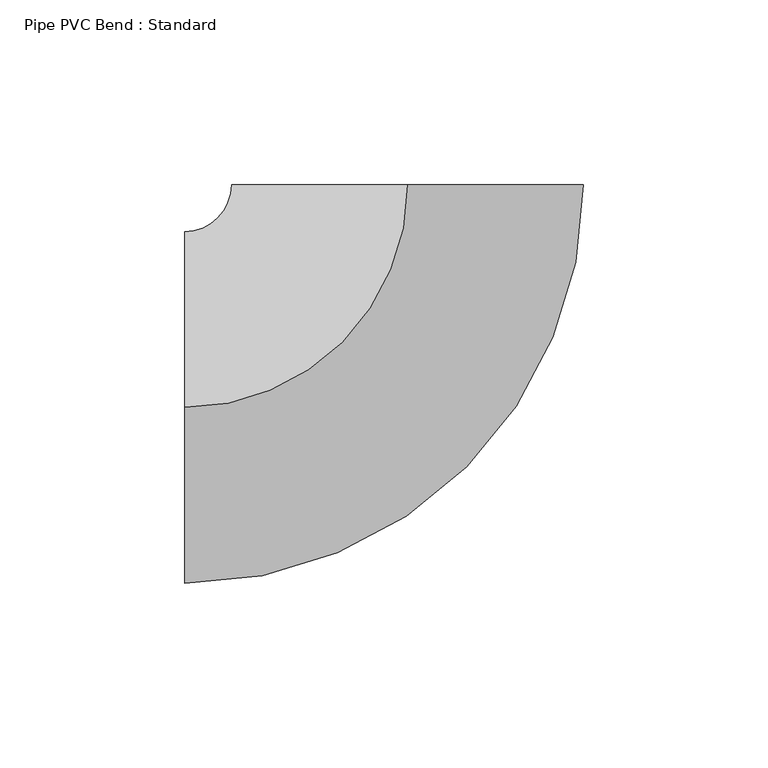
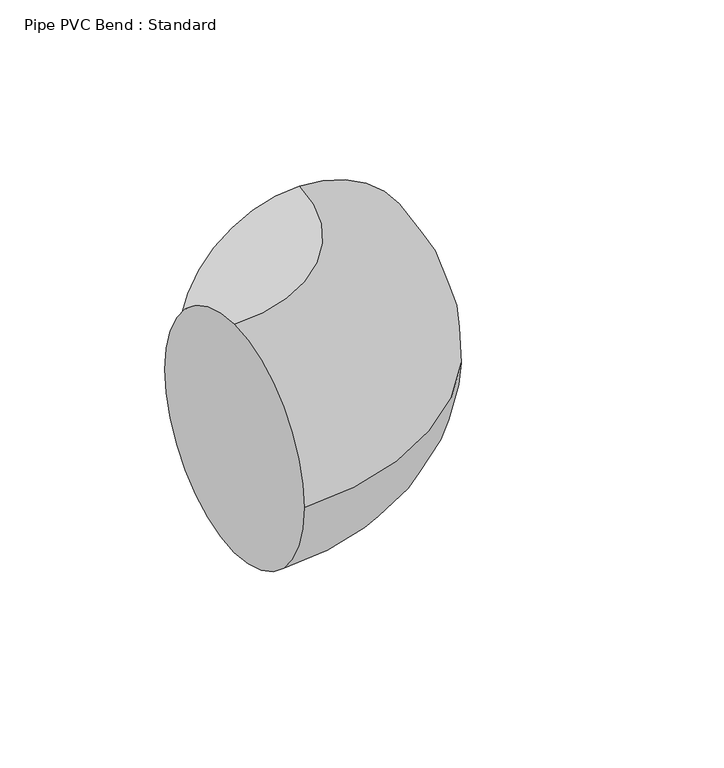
"""IFC4 building model written with IfcOpenShell, lengths in millimetres: pipe fitting geometry, Pipe PVC Bend : Standard."""

from ifc_helpers import new_model, si_unit, point, frame, origin, place, context, project, spatial, circle_curve, ellipse_curve, trimmed, source, transform, mapped, element, save
from ifc_brep_helpers import plane_surface, revolved_surface, advanced_brep


def pipe_pvc_bend_standard_bab017a1(model_context):
    return source(origin(), model_context, "Body", "AdvancedBrep", [
        advanced_brep(
        [(-60.3184571, 0.0, 47.625), (-60.3184571, 47.625, 0.0), (-60.3184571, 0.0, -47.625), (-60.3184571, -47.625, 0.0), (0.0065426, 60.3184567, 47.625), (47.6315423, 60.3132909, 0.0), (0.0065426, 60.3184567, -47.625), (-47.6184571, 60.3236225, 0.0)],
        [
            (0, 1, circle_curve(frame((-60.3184571, 0.0, 0.0), z_axis=(-1.0, 0.0, 0.0), x_axis=(0.0, 1.0, 0.0)), 47.625)),
            (1, 2, circle_curve(frame((-60.3184571, 0.0, 0.0), z_axis=(-1.0, 0.0, 0.0), x_axis=(0.0, 1.0, 0.0)), 47.625)),
            (2, 3, circle_curve(frame((-60.3184571, 0.0, 0.0), z_axis=(-1.0, 0.0, 0.0), x_axis=(0.0, 1.0, 0.0)), 47.625)),
            (3, 0, circle_curve(frame((-60.3184571, 0.0, 0.0), z_axis=(-1.0, 0.0, 0.0), x_axis=(0.0, 1.0, 0.0)), 47.625)),
            (4, 5, circle_curve(frame((0.0065426, 60.3184567, 0.0), z_axis=(0.00010846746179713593, 0.9999999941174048, 0.0), x_axis=(-0.9999999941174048, 0.00010846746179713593, 0.0)), 47.625)),
            (5, 6, circle_curve(frame((0.0065426, 60.3184567, 0.0), z_axis=(0.00010846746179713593, 0.9999999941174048, 0.0), x_axis=(-0.9999999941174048, 0.00010846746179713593, 0.0)), 47.625)),
            (6, 7, circle_curve(frame((0.0065426, 60.3184567, 0.0), z_axis=(0.00010846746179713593, 0.9999999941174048, 0.0), x_axis=(-0.9999999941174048, 0.00010846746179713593, 0.0)), 47.625)),
            (7, 4, circle_curve(frame((0.0065426, 60.3184567, 0.0), z_axis=(0.00010846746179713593, 0.9999999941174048, 0.0), x_axis=(-0.9999999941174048, 0.00010846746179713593, 0.0)), 47.625)),
            (7, 1, circle_curve(frame((-60.3184571, 60.325, 0.0), z_axis=(0.0, 0.0, -1.0), x_axis=(0.0, -1.0, 0.0)), 12.7)),
            (0, 4, circle_curve(frame((-60.3184571, 60.325, 47.625), z_axis=(0.0, 0.0, 1.0), x_axis=(0.0, -1.0, 0.0)), 60.325)),
            (6, 2, circle_curve(frame((-60.3184571, 60.325, -47.625), z_axis=(0.0, 0.0, -1.0), x_axis=(0.0, -1.0, 0.0)), 60.325)),
            (5, 3, circle_curve(frame((-60.3184571, 60.325, 0.0), z_axis=(0.0, 0.0, -1.0), x_axis=(0.0, -1.0, 0.0)), 107.95)),
        ],
        [
            plane_surface(frame((-60.3184571, 0.0, 0.0), z_axis=(-1.0, 0.0, 0.0), x_axis=(0.0, 0.0, 1.0))),
            plane_surface(frame((0.0065426, 60.3184567, 0.0), z_axis=(0.00010846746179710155, 0.9999999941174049, 0.0), x_axis=(0.0, 0.0, 1.0))),
            revolved_surface(trimmed(ellipse_curve(frame((-60.3184571, 0.0, 0.0), z_axis=(-1.0, 0.0, 0.0), x_axis=(0.0, 1.0, 0.0)), 47.625, 47.625), [point((-60.3184571, 0.0, 47.625))], [point((-60.3184571, 47.625, 0.0))], True, "CARTESIAN"), (-60.3184571, 60.325, 0.0), (0.0, 0.0, 1.0)),
            revolved_surface(trimmed(ellipse_curve(frame((-60.3184571, 0.0, 0.0), z_axis=(-1.0, 0.0, 0.0), x_axis=(0.0, 1.0, 0.0)), 47.625, 47.625), [point((-60.3184571, 47.625, 0.0))], [point((-60.3184571, 0.0, -47.625))], True, "CARTESIAN"), (-60.3184571, 60.325, 0.0), (0.0, 0.0, 1.0)),
            revolved_surface(trimmed(ellipse_curve(frame((-60.3184571, 0.0, 0.0), z_axis=(-1.0, 0.0, 0.0), x_axis=(0.0, 1.0, 0.0)), 47.625, 47.625), [point((-60.3184571, 0.0, -47.625))], [point((-60.3184571, -47.625, 0.0))], True, "CARTESIAN"), (-60.3184571, 60.325, 0.0), (0.0, 0.0, 1.0)),
            revolved_surface(trimmed(ellipse_curve(frame((-60.3184571, 0.0, 0.0), z_axis=(-1.0, 0.0, 0.0), x_axis=(0.0, 1.0, 0.0)), 47.625, 47.625), [point((-60.3184571, -47.625, 0.0))], [point((-60.3184571, 0.0, 47.625))], True, "CARTESIAN"), (-60.3184571, 60.325, 0.0), (0.0, 0.0, 1.0)),
        ],
        [
            (0, [[1, 2, 3, 4]]),
            (1, [[5, 6, 7, 8]]),
            (2, [[9, -1, 10, -8]]),
            (3, [[11, -2, -9, -7]]),
            (4, [[12, -3, -11, -6]]),
            (5, [[-10, -4, -12, -5]]),
        ],
    ),
        advanced_brep(
        [(-60.3184571, 0.0, 47.625), (-60.3184571, 47.625, 0.0), (-60.3184571, 0.0, -47.625), (-60.3184571, -47.625, 0.0), (0.0065426, 60.3184567, 47.625), (47.6315423, 60.3132909, 0.0), (0.0065426, 60.3184567, -47.625), (-47.6184571, 60.3236225, 0.0)],
        [
            (0, 1, circle_curve(frame((-60.3184571, 0.0, 0.0), z_axis=(-1.0, 0.0, 0.0), x_axis=(0.0, 1.0, 0.0)), 47.625)),
            (1, 2, circle_curve(frame((-60.3184571, 0.0, 0.0), z_axis=(-1.0, 0.0, 0.0), x_axis=(0.0, 1.0, 0.0)), 47.625)),
            (2, 3, circle_curve(frame((-60.3184571, 0.0, 0.0), z_axis=(-1.0, 0.0, 0.0), x_axis=(0.0, 1.0, 0.0)), 47.625)),
            (3, 0, circle_curve(frame((-60.3184571, 0.0, 0.0), z_axis=(-1.0, 0.0, 0.0), x_axis=(0.0, 1.0, 0.0)), 47.625)),
            (4, 5, circle_curve(frame((0.0065426, 60.3184567, 0.0), z_axis=(0.00010846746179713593, 0.9999999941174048, 0.0), x_axis=(-0.9999999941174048, 0.00010846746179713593, 0.0)), 47.625)),
            (5, 6, circle_curve(frame((0.0065426, 60.3184567, 0.0), z_axis=(0.00010846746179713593, 0.9999999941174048, 0.0), x_axis=(-0.9999999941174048, 0.00010846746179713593, 0.0)), 47.625)),
            (6, 7, circle_curve(frame((0.0065426, 60.3184567, 0.0), z_axis=(0.00010846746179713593, 0.9999999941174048, 0.0), x_axis=(-0.9999999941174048, 0.00010846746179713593, 0.0)), 47.625)),
            (7, 4, circle_curve(frame((0.0065426, 60.3184567, 0.0), z_axis=(0.00010846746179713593, 0.9999999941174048, 0.0), x_axis=(-0.9999999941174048, 0.00010846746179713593, 0.0)), 47.625)),
            (7, 1, circle_curve(frame((-60.3184571, 60.325, 0.0), z_axis=(0.0, 0.0, -1.0), x_axis=(0.0, -1.0, 0.0)), 12.7)),
            (0, 4, circle_curve(frame((-60.3184571, 60.325, 47.625), z_axis=(0.0, 0.0, 1.0), x_axis=(0.0, -1.0, 0.0)), 60.325)),
            (6, 2, circle_curve(frame((-60.3184571, 60.325, -47.625), z_axis=(0.0, 0.0, -1.0), x_axis=(0.0, -1.0, 0.0)), 60.325)),
            (5, 3, circle_curve(frame((-60.3184571, 60.325, 0.0), z_axis=(0.0, 0.0, -1.0), x_axis=(0.0, -1.0, 0.0)), 107.95)),
        ],
        [
            plane_surface(frame((-60.3184571, 0.0, 0.0), z_axis=(-1.0, 0.0, 0.0), x_axis=(0.0, 0.0, 1.0))),
            plane_surface(frame((0.0065426, 60.3184567, 0.0), z_axis=(0.00010846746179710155, 0.9999999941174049, 0.0), x_axis=(0.0, 0.0, 1.0))),
            revolved_surface(trimmed(ellipse_curve(frame((-60.3184571, 0.0, 0.0), z_axis=(-1.0, 0.0, 0.0), x_axis=(0.0, 1.0, 0.0)), 47.625, 47.625), [point((-60.3184571, 0.0, 47.625))], [point((-60.3184571, 47.625, 0.0))], True, "CARTESIAN"), (-60.3184571, 60.325, 0.0), (0.0, 0.0, 1.0)),
            revolved_surface(trimmed(ellipse_curve(frame((-60.3184571, 0.0, 0.0), z_axis=(-1.0, 0.0, 0.0), x_axis=(0.0, 1.0, 0.0)), 47.625, 47.625), [point((-60.3184571, 47.625, 0.0))], [point((-60.3184571, 0.0, -47.625))], True, "CARTESIAN"), (-60.3184571, 60.325, 0.0), (0.0, 0.0, 1.0)),
            revolved_surface(trimmed(ellipse_curve(frame((-60.3184571, 0.0, 0.0), z_axis=(-1.0, 0.0, 0.0), x_axis=(0.0, 1.0, 0.0)), 47.625, 47.625), [point((-60.3184571, 0.0, -47.625))], [point((-60.3184571, -47.625, 0.0))], True, "CARTESIAN"), (-60.3184571, 60.325, 0.0), (0.0, 0.0, 1.0)),
            revolved_surface(trimmed(ellipse_curve(frame((-60.3184571, 0.0, 0.0), z_axis=(-1.0, 0.0, 0.0), x_axis=(0.0, 1.0, 0.0)), 47.625, 47.625), [point((-60.3184571, -47.625, 0.0))], [point((-60.3184571, 0.0, 47.625))], True, "CARTESIAN"), (-60.3184571, 60.325, 0.0), (0.0, 0.0, 1.0)),
        ],
        [
            (0, [[1, 2, 3, 4]]),
            (1, [[5, 6, 7, 8]]),
            (2, [[9, -1, 10, -8]]),
            (3, [[11, -2, -9, -7]]),
            (4, [[12, -3, -11, -6]]),
            (5, [[-10, -4, -12, -5]]),
        ],
    ),
    ])


if __name__ == "__main__":
    model = new_model("IFC4")
    model_context = context("Model", 3, world=origin())
    ifc_project = project(units=[si_unit("LENGTHUNIT", "METRE", prefix="MILLI")], contexts=[model_context])
    site = spatial("IfcSite", under=ifc_project)
    building = spatial("IfcBuilding", under=site)
    placement = place(None, origin())
    pipe_pvc_bend_standard_shape = pipe_pvc_bend_standard_bab017a1(model_context)
    element("IfcPipeFitting", 1, ObjectType="Pipe PVC Bend : Standard", at=placement, inside=building, context=model_context, shape_type="MappedRepresentation", body=[
        mapped(pipe_pvc_bend_standard_shape, transform((0.0, 0.0, 0.0), x_axis=(1.0, 0.0, 0.0), y_axis=(0.0, 1.0, 0.0), z_axis=(0.0, 0.0, 1.0))),
    ])
    save(model, "model.ifc")
